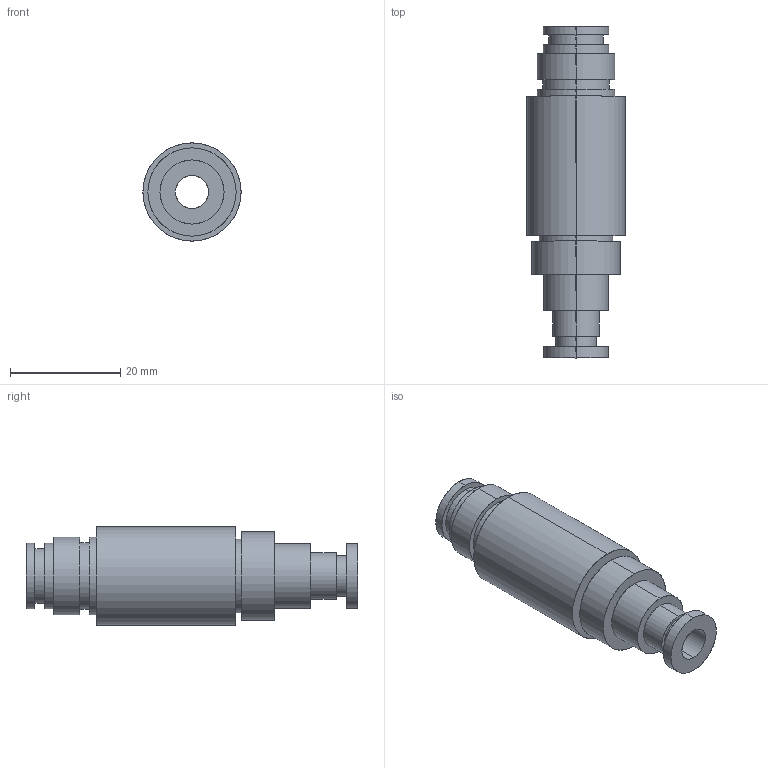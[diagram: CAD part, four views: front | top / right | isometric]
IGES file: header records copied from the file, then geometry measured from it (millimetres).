
Start section: SolidWorks IGES FILE using analytic representation for surfaces
Global section: file name: \\intra-srv04\開発データ\CAD_Data\CAD委員会\3D電子ｶﾀﾛｸﾞ\製品カタログ（新）\0_IGES\ER-VAJT-64.IGS,41HSolidWorks 2004; native system: by SolidWorks Corporation; preprocessor: Version 5.3; author: yk0651; date: 050908.145050; units: millimetre
Bounding box: 17.8 x 60.2 x 17.8 mm (x, y, z)
Surface area: 4722.4 mm2 (no closed solid volume)
Topology: 0 solids, 0 shells, 42 faces, 1008 edges, 1008 vertices
Faces by surface type: revolution 28, bspline 14
